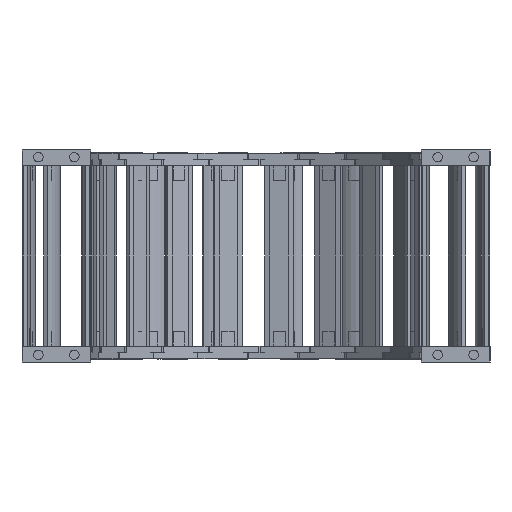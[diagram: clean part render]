
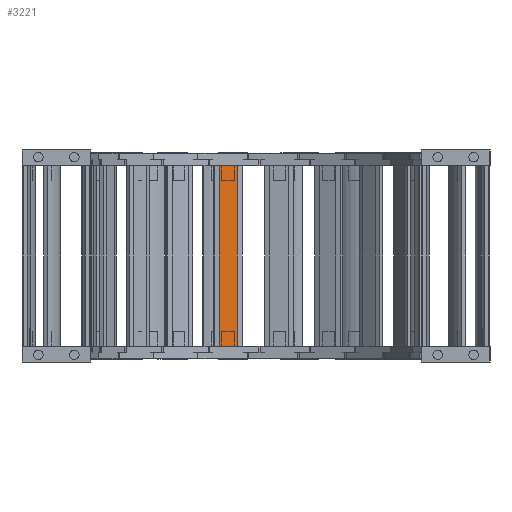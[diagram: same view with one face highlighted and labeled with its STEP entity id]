
A CAD part, left-side view. The second image highlights one B-rep face of the part: STEP entity #3221.
In plain terms, the highlighted planar face has unit normal (-0.986, -0.169, 0) as drawn and (0, -1, 0) by its records, which use the part's own axes.
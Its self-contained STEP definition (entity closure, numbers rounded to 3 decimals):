
#3054=DIRECTION('',(0.,0.,-1.));
#3055=VECTOR('',#3054,225.5);
#3056=CARTESIAN_POINT('',(-11.5,-82.,37.5));
#3057=LINE('',#3056,#3055);
#3083=DIRECTION('',(1.,0.,0.));
#3084=VECTOR('',#3083,23.);
#3085=CARTESIAN_POINT('',(-11.5,-82.,37.5));
#3086=LINE('',#3085,#3084);
#3140=DIRECTION('',(-1.,0.,0.));
#3141=VECTOR('',#3140,23.);
#3142=CARTESIAN_POINT('',(11.5,-82.,-188.));
#3143=LINE('',#3142,#3141);
#3168=DIRECTION('',(0.,0.,-1.));
#3169=VECTOR('',#3168,225.5);
#3170=CARTESIAN_POINT('',(11.5,-82.,37.5));
#3171=LINE('',#3170,#3169);
#3188=CARTESIAN_POINT('',(11.5,-82.,-188.));
#3189=VERTEX_POINT('',#3188);
#3190=CARTESIAN_POINT('',(-11.5,-82.,-188.));
#3191=VERTEX_POINT('',#3190);
#3200=CARTESIAN_POINT('',(11.5,-82.,37.5));
#3201=VERTEX_POINT('',#3200);
#3204=CARTESIAN_POINT('',(-11.5,-82.,37.5));
#3205=VERTEX_POINT('',#3204);
#3206=CARTESIAN_POINT('',(15.5,-82.,-188.));
#3207=DIRECTION('',(0.,1.,0.));
#3208=DIRECTION('',(-1.,0.,0.));
#3209=AXIS2_PLACEMENT_3D('',#3206,#3207,#3208);
#3210=PLANE('',#3209);
#3212=ORIENTED_EDGE('',*,*,#3211,.F.);
#3214=ORIENTED_EDGE('',*,*,#3213,.T.);
#3216=ORIENTED_EDGE('',*,*,#3215,.T.);
#3218=ORIENTED_EDGE('',*,*,#3217,.T.);
#3219=EDGE_LOOP('',(#3212,#3214,#3216,#3218));
#3220=FACE_OUTER_BOUND('',#3219,.F.);
#3221=ADVANCED_FACE('',(#3220),#3210,.F.);
#3211=EDGE_CURVE('',#3205,#3191,#3057,.T.);
#3213=EDGE_CURVE('',#3205,#3201,#3086,.T.);
#3215=EDGE_CURVE('',#3201,#3189,#3171,.T.);
#3217=EDGE_CURVE('',#3189,#3191,#3143,.T.);
